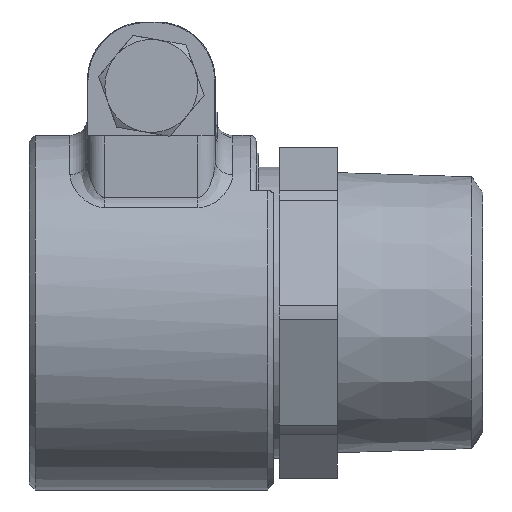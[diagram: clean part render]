
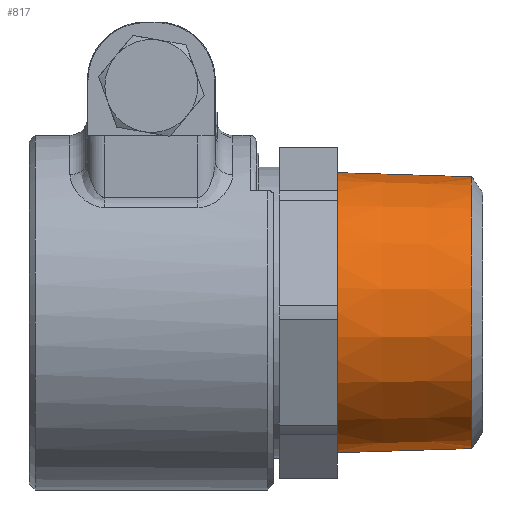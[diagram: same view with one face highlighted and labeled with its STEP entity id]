
A CAD part, left-side view. The second image highlights one B-rep face of the part: STEP entity #817.
In plain terms, the highlighted conical face has half-angle 1.783 degrees and reference radius 23.367 mm.
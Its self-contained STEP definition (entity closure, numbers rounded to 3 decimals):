
#471 = CARTESIAN_POINT ( 'NONE',  ( 0., -34.071, 23.367 ) ) ;
#475 = LINE ( 'NONE', #471, #12238 ) ;
#479 = DIRECTION ( 'NONE',  ( 0., 1., 0.031 ) ) ;
#583 = LINE ( 'NONE', #585, #12279 ) ;
#585 = CARTESIAN_POINT ( 'NONE',  ( 0., -34.071, -23.367 ) ) ;
#587 = DIRECTION ( 'NONE',  ( 0., 1., -0.031 ) ) ;
#630 = EDGE_CURVE ( 'NONE', #13945, #13931, #5389, .T. ) ;
#704 = EDGE_CURVE ( 'NONE', #13854, #13837, #4133, .T. ) ;
#817 = ADVANCED_FACE ( 'NONE', ( #10184 ), #4168, .T. ) ;
#4133 = CIRCLE ( 'NONE', #4138, 23.367 ) ;
#4138 = AXIS2_PLACEMENT_3D ( 'NONE', #5038, #5039, #5040 ) ;
#4167 = AXIS2_PLACEMENT_3D ( 'NONE', #10187, #10185, #10181 ) ;
#4168 = CONICAL_SURFACE ( 'NONE', #4167, 23.367, 0.031 ) ;
#4271 = CARTESIAN_POINT ( 'NONE',  ( 0., -34.071, -23.367 ) ) ;
#4288 = CARTESIAN_POINT ( 'NONE',  ( 0., -34.071, 23.367 ) ) ;
#4365 = CARTESIAN_POINT ( 'NONE',  ( 0., -11., -24.085 ) ) ;
#4379 = CARTESIAN_POINT ( 'NONE',  ( 0., -11., 24.085 ) ) ;
#4473 = EDGE_LOOP ( 'NONE', ( #14015, #14016, #14017, #14018 ) ) ;
#4920 = CARTESIAN_POINT ( 'NONE',  ( 0., -11., 0. ) ) ;
#4921 = DIRECTION ( 'NONE',  ( 0., -1., 0. ) ) ;
#4922 = DIRECTION ( 'NONE',  ( 0., 0., -1. ) ) ;
#5038 = CARTESIAN_POINT ( 'NONE',  ( 0., -34.071, 0. ) ) ;
#5039 = DIRECTION ( 'NONE',  ( 0., -1., 0. ) ) ;
#5040 = DIRECTION ( 'NONE',  ( 0., 0., -1. ) ) ;
#5389 = CIRCLE ( 'NONE', #5487, 24.085 ) ;
#5487 = AXIS2_PLACEMENT_3D ( 'NONE', #4920, #4921, #4922 ) ;
#6352 = EDGE_CURVE ( 'NONE', #13854, #13945, #475, .T. ) ;
#6371 = EDGE_CURVE ( 'NONE', #13837, #13931, #583, .T. ) ;
#10181 = DIRECTION ( 'NONE',  ( 0., 0., 1. ) ) ;
#10184 = FACE_OUTER_BOUND ( 'NONE', #4473, .T. ) ;
#10185 = DIRECTION ( 'NONE',  ( 0., 1., 0. ) ) ;
#10187 = CARTESIAN_POINT ( 'NONE',  ( 0., -34.071, 0. ) ) ;
#12238 = VECTOR ( 'NONE', #479, 1000. ) ;
#12279 = VECTOR ( 'NONE', #587, 1000. ) ;
#13837 = VERTEX_POINT ( 'NONE', #4271 ) ;
#13854 = VERTEX_POINT ( 'NONE', #4288 ) ;
#13931 = VERTEX_POINT ( 'NONE', #4365 ) ;
#13945 = VERTEX_POINT ( 'NONE', #4379 ) ;
#14015 = ORIENTED_EDGE ( 'NONE', *, *, #6371, .F. ) ;
#14016 = ORIENTED_EDGE ( 'NONE', *, *, #704, .F. ) ;
#14017 = ORIENTED_EDGE ( 'NONE', *, *, #6352, .T. ) ;
#14018 = ORIENTED_EDGE ( 'NONE', *, *, #630, .T. ) ;
